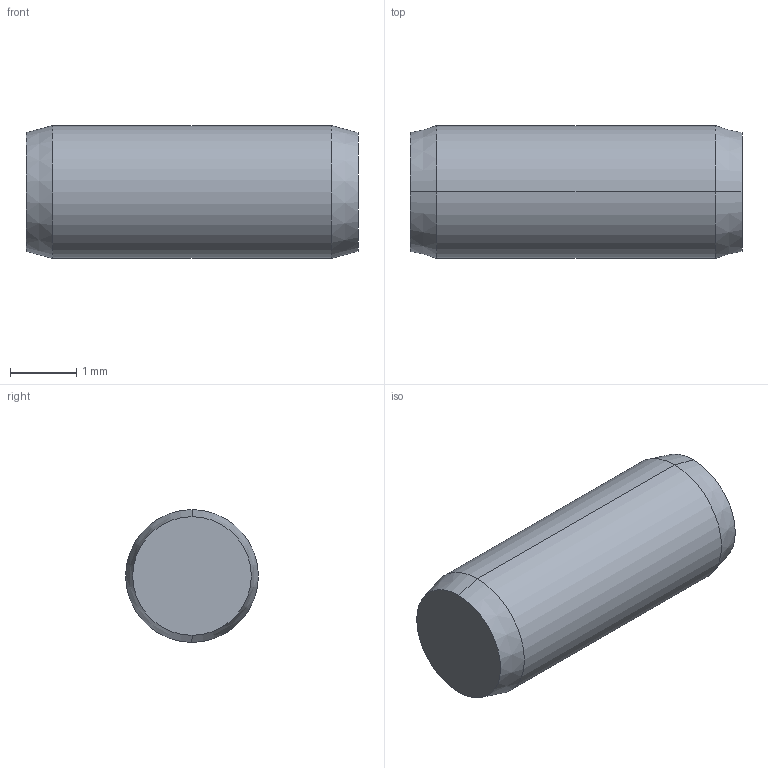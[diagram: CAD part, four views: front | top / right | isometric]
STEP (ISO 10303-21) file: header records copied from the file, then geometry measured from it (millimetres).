
FILE_DESCRIPTION (( 'STEP AP203' ), '1' );
FILE_NAME ('P1206.020-005.step', '2017-06-14T07:55:42', ( 'User' ), ( '' ), 'SwSTEP 2.0', 'SolidWorks 2009', '' );
FILE_SCHEMA (( 'CONFIG_CONTROL_DESIGN' ));
Length unit declared in the file: millimetre
Products named in the file (1): P1206.020-005
Bounding box: 5 x 2 x 2 mm (x, y, z)
Volume: 15.4 mm3; surface area: 36.3 mm2
Topology: 1 solids, 1 shells, 8 faces, 14 edges, 8 vertices
Faces by surface type: cone 4, cylinder 2, plane 2
Entity records: 271 total; most frequent: DIRECTION 40, CARTESIAN_POINT 31, ORIENTED_EDGE 28, AXIS2_PLACEMENT_3D 17, EDGE_CURVE 14, PERSON_AND_ORGANIZATION 8, VERTEX_POINT 8, EDGE_LOOP 8
